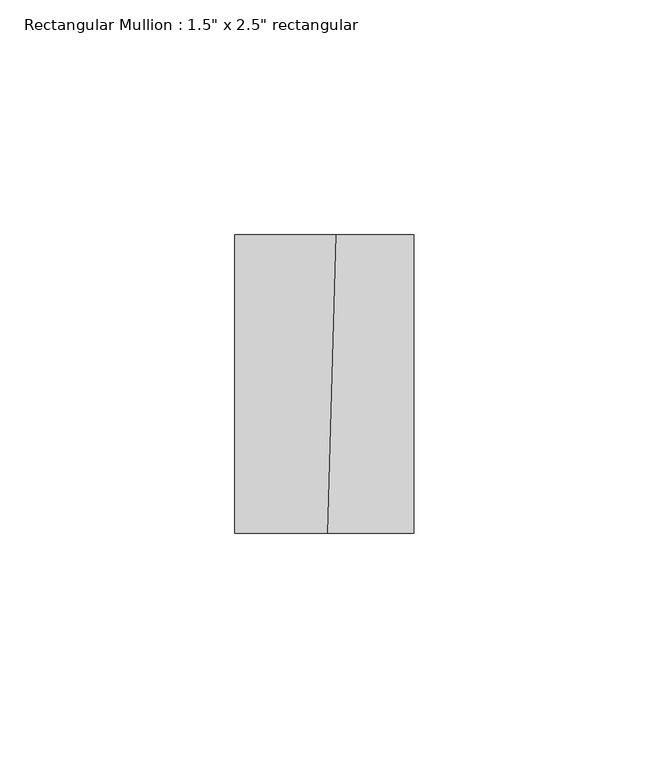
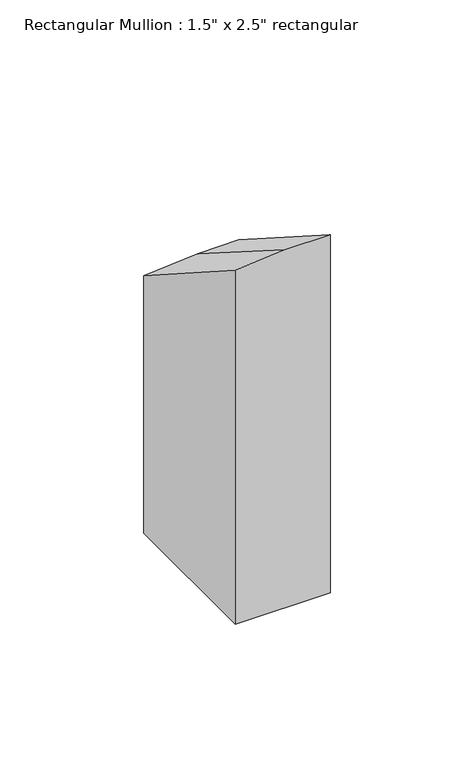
"""IFC4 building model written with IfcOpenShell, lengths in millimetres: member geometry."""

from ifc_helpers import new_model, si_unit, origin, place, context, project, spatial, faceted_brep, source, transform, mapped, element, save


def member_3f421149(model_context):
    return source(origin(), model_context, "Body", "Brep", [
        faceted_brep([(19.05, 31.75, -169.2141598), (19.05, -31.75, -169.2141598), (-19.05, -31.75, -169.2141598), (-19.05, 31.75, -169.2141598), (-19.05, 31.75, -59.830764), (2.5343542, 31.75, -58.1011929), (19.05, 31.75, -57.9818799), (-19.05, -31.75, -18.9271922), (19.05, -31.75, -17.2079348), (0.7563689, -31.75, -17.3400925)], [[[0, 1, 2, 3]], [[4, 5, 6, 0, 3]], [[7, 4, 3, 2]], [[8, 9, 7, 2, 1]], [[6, 8, 1, 0]], [[6, 5, 9, 8]], [[5, 4, 7, 9]]]),
    ])


if __name__ == "__main__":
    model = new_model("IFC4")
    model_context = context("Model", 3, world=origin())
    ifc_project = project(units=[si_unit("LENGTHUNIT", "METRE", prefix="MILLI")], contexts=[model_context])
    site = spatial("IfcSite", under=ifc_project)
    building = spatial("IfcBuilding", under=site)
    placement = place(None, origin())
    member_shape = member_3f421149(model_context)
    element("IfcMember", 1, ObjectType="Rectangular Mullion : 1.5\" x 2.5\" rectangular", at=placement, inside=building, context=model_context, shape_type="MappedRepresentation", body=[
        mapped(member_shape, transform((0.0, 0.0, 0.0), x_axis=(1.0, 0.0, 0.0), y_axis=(0.0, 1.0, 0.0), z_axis=(0.0, 0.0, 1.0))),
    ])
    save(model, "model.ifc")
